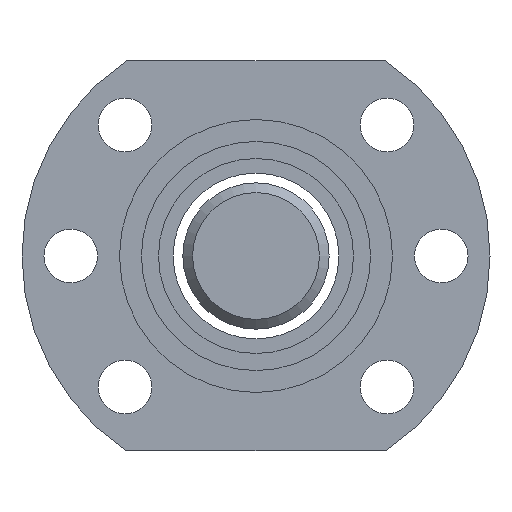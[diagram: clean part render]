
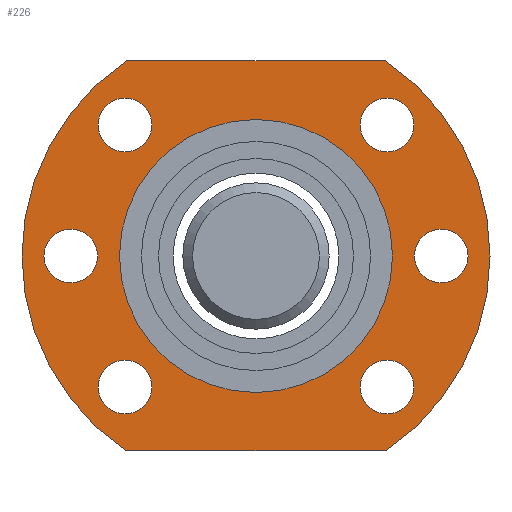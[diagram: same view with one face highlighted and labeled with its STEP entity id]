
A CAD part, left-side view. The second image highlights one B-rep face of the part: STEP entity #226.
In plain terms, the highlighted planar face has unit normal (-1, 0, 0).
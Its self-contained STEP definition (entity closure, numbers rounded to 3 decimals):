
#97=LINE('',#869,#105);
#98=LINE('',#873,#106);
#105=VECTOR('',#736,1.);
#106=VECTOR('',#739,1.);
#183=FACE_BOUND('',#307,.T.);
#184=FACE_BOUND('',#308,.T.);
#185=FACE_BOUND('',#309,.T.);
#186=FACE_BOUND('',#310,.T.);
#187=FACE_BOUND('',#311,.T.);
#188=FACE_BOUND('',#312,.T.);
#189=FACE_BOUND('',#313,.T.);
#190=FACE_BOUND('',#314,.T.);
#226=ADVANCED_FACE('',(#183,#184,#185,#186,#187,#188,#189,#190),#248,.T.);
#248=PLANE('',#611);
#307=EDGE_LOOP('',(#384));
#308=EDGE_LOOP('',(#385));
#309=EDGE_LOOP('',(#386,#387,#388,#389));
#310=EDGE_LOOP('',(#390));
#311=EDGE_LOOP('',(#391));
#312=EDGE_LOOP('',(#392));
#313=EDGE_LOOP('',(#393));
#314=EDGE_LOOP('',(#394));
#384=ORIENTED_EDGE('',*,*,#497,.T.);
#385=ORIENTED_EDGE('',*,*,#486,.F.);
#386=ORIENTED_EDGE('',*,*,#498,.T.);
#387=ORIENTED_EDGE('',*,*,#499,.T.);
#388=ORIENTED_EDGE('',*,*,#500,.T.);
#389=ORIENTED_EDGE('',*,*,#501,.T.);
#390=ORIENTED_EDGE('',*,*,#502,.F.);
#391=ORIENTED_EDGE('',*,*,#503,.F.);
#392=ORIENTED_EDGE('',*,*,#504,.F.);
#393=ORIENTED_EDGE('',*,*,#505,.T.);
#394=ORIENTED_EDGE('',*,*,#506,.T.);
#444=VERTEX_POINT('',#841);
#455=VERTEX_POINT('',#865);
#456=VERTEX_POINT('',#867);
#457=VERTEX_POINT('',#868);
#458=VERTEX_POINT('',#870);
#459=VERTEX_POINT('',#872);
#460=VERTEX_POINT('',#875);
#461=VERTEX_POINT('',#877);
#462=VERTEX_POINT('',#879);
#463=VERTEX_POINT('',#881);
#464=VERTEX_POINT('',#883);
#486=EDGE_CURVE('',#444,#444,#532,.T.);
#497=EDGE_CURVE('',#455,#455,#541,.T.);
#498=EDGE_CURVE('',#456,#457,#542,.T.);
#499=EDGE_CURVE('',#457,#458,#97,.T.);
#500=EDGE_CURVE('',#458,#459,#543,.T.);
#501=EDGE_CURVE('',#459,#456,#98,.T.);
#502=EDGE_CURVE('',#460,#460,#544,.T.);
#503=EDGE_CURVE('',#461,#461,#545,.T.);
#504=EDGE_CURVE('',#462,#462,#546,.T.);
#505=EDGE_CURVE('',#463,#463,#547,.T.);
#506=EDGE_CURVE('',#464,#464,#548,.T.);
#532=CIRCLE('',#592,14.);
#541=CIRCLE('',#603,2.75);
#542=CIRCLE('',#604,24.);
#543=CIRCLE('',#605,24.);
#544=CIRCLE('',#606,2.75);
#545=CIRCLE('',#607,2.75);
#546=CIRCLE('',#608,2.75);
#547=CIRCLE('',#609,2.75);
#548=CIRCLE('',#610,2.75);
#592=AXIS2_PLACEMENT_3D('',#840,#708,#709);
#603=AXIS2_PLACEMENT_3D('',#864,#732,#733);
#604=AXIS2_PLACEMENT_3D('',#866,#734,#735);
#605=AXIS2_PLACEMENT_3D('',#871,#737,#738);
#606=AXIS2_PLACEMENT_3D('',#874,#740,#741);
#607=AXIS2_PLACEMENT_3D('',#876,#742,#743);
#608=AXIS2_PLACEMENT_3D('',#878,#744,#745);
#609=AXIS2_PLACEMENT_3D('',#880,#746,#747);
#610=AXIS2_PLACEMENT_3D('',#882,#748,#749);
#611=AXIS2_PLACEMENT_3D('',#884,#750,#751);
#708=DIRECTION('',(-1.,0.,0.));
#709=DIRECTION('',(0.,0.,-1.));
#732=DIRECTION('',(1.,0.,0.));
#733=DIRECTION('',(0.,0.,1.));
#734=DIRECTION('',(-1.,0.,0.));
#735=DIRECTION('',(0.,0.,-1.));
#736=DIRECTION('',(0.,-1.,0.));
#737=DIRECTION('',(-1.,0.,0.));
#738=DIRECTION('',(0.,0.,-1.));
#739=DIRECTION('',(0.,1.,0.));
#740=DIRECTION('',(-1.,0.,0.));
#741=DIRECTION('',(0.,0.,1.));
#742=DIRECTION('',(-1.,0.,0.));
#743=DIRECTION('',(0.,0.,1.));
#744=DIRECTION('',(-1.,0.,0.));
#745=DIRECTION('',(0.,0.,1.));
#746=DIRECTION('',(1.,0.,0.));
#747=DIRECTION('',(0.,0.,1.));
#748=DIRECTION('',(1.,0.,0.));
#749=DIRECTION('',(0.,0.,1.));
#750=DIRECTION('',(-1.,0.,0.));
#751=DIRECTION('',(0.,0.,-1.));
#840=CARTESIAN_POINT('',(-1.649,-35.938,0.));
#841=CARTESIAN_POINT('',(-1.649,-35.938,-14.));
#864=CARTESIAN_POINT('',(-1.649,-54.938,0.));
#865=CARTESIAN_POINT('',(-1.649,-54.938,2.75));
#866=CARTESIAN_POINT('',(-1.649,-35.938,0.));
#867=CARTESIAN_POINT('',(-1.649,-22.672,20.));
#868=CARTESIAN_POINT('',(-1.649,-22.672,-20.));
#869=CARTESIAN_POINT('',(-1.649,-22.672,-20.));
#870=CARTESIAN_POINT('',(-1.649,-49.205,-20.));
#871=CARTESIAN_POINT('',(-1.649,-35.938,0.));
#872=CARTESIAN_POINT('',(-1.649,-49.205,20.));
#873=CARTESIAN_POINT('',(-1.649,-49.205,20.));
#874=CARTESIAN_POINT('',(-1.649,-16.938,0.));
#875=CARTESIAN_POINT('',(-1.649,-16.938,2.75));
#876=CARTESIAN_POINT('',(-1.649,-22.503,13.435));
#877=CARTESIAN_POINT('',(-1.649,-22.503,16.185));
#878=CARTESIAN_POINT('',(-1.649,-22.503,-13.435));
#879=CARTESIAN_POINT('',(-1.649,-22.503,-10.685));
#880=CARTESIAN_POINT('',(-1.649,-49.373,-13.435));
#881=CARTESIAN_POINT('',(-1.649,-49.373,-10.685));
#882=CARTESIAN_POINT('',(-1.649,-49.373,13.435));
#883=CARTESIAN_POINT('',(-1.649,-49.373,16.185));
#884=CARTESIAN_POINT('',(-1.649,-35.938,0.));
